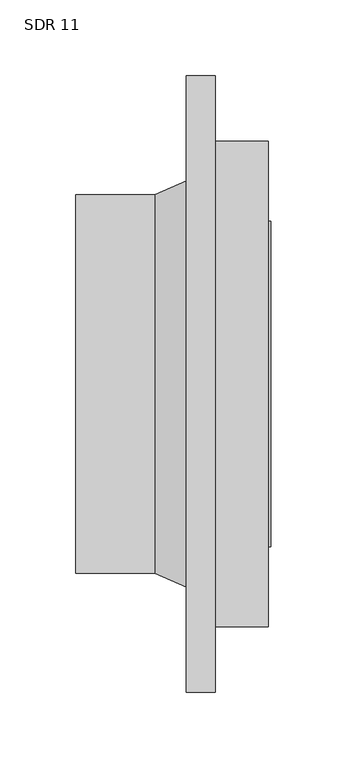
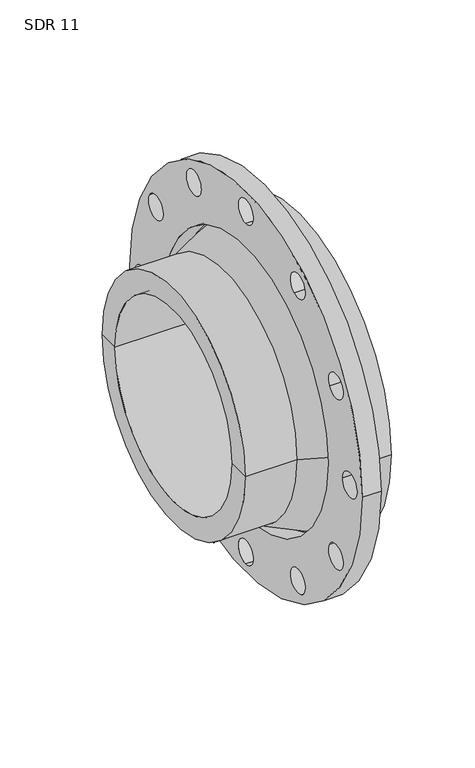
"""IFC4 building model written with IfcOpenShell, lengths in millimetres: valve geometry, Aquatherm - Flange Adapter Butt-Weld : SDR 11."""

from ifc_helpers import new_model, si_unit, point, frame, frame_2d, origin, origin_2d, place, context, project, spatial, polyline, circle_curve, trimmed, segment, composite_curve, outline, extrude, source, transform, mapped, element, save
from ifc_brep_helpers import plane_surface, cylinder_surface, revolved_surface, advanced_brep


def sdr_11_c5331786(model_context):
    return source(origin(), model_context, "Body", "SolidModel", [
        extrude(outline(composite_curve([segment(trimmed(circle_curve(origin_2d(), 203.2), [point((-203.2, 0.0))], [point((203.2, 0.0))], False, "CARTESIAN"), True, "CONTINUOUS"), segment(trimmed(circle_curve(origin_2d(), 203.2), [point((203.2, 0.0))], [point((-203.2, 0.0))], False, "CARTESIAN"), True, "CONTINUOUS")], self_intersect=False), holes=[composite_curve([segment(trimmed(circle_curve(origin_2d(), 143.51), [point((-143.51, 0.0))], [point((143.51, 0.0))], True, "CARTESIAN"), True, "CONTINUOUS"), segment(trimmed(circle_curve(origin_2d(), 143.51), [point((143.51, 0.0))], [point((-143.51, 0.0))], True, "CARTESIAN"), True, "CONTINUOUS")], self_intersect=False), composite_curve([segment(trimmed(circle_curve(frame_2d((181.61, 0.0)), 12.7), [point((168.91, 0.0))], [point((194.31, 0.0))], True, "CARTESIAN"), True, "CONTINUOUS"), segment(trimmed(circle_curve(frame_2d((181.61, 0.0)), 12.7), [point((194.31, 0.0))], [point((168.91, 0.0))], True, "CARTESIAN"), True, "CONTINUOUS")], self_intersect=False), composite_curve([segment(trimmed(circle_curve(frame_2d((157.2788736, -90.805)), 12.7), [point((146.280351, -84.455))], [point((168.2773962, -97.155))], True, "CARTESIAN"), True, "CONTINUOUS"), segment(trimmed(circle_curve(frame_2d((157.2788736, -90.805)), 12.7), [point((168.2773962, -97.155))], [point((146.280351, -84.455))], True, "CARTESIAN"), True, "CONTINUOUS")], self_intersect=False), composite_curve([segment(trimmed(circle_curve(frame_2d((157.2788736, 90.805)), 12.7), [point((146.280351, 84.455))], [point((168.2773962, 97.155))], True, "CARTESIAN"), True, "CONTINUOUS"), segment(trimmed(circle_curve(frame_2d((157.2788736, 90.805)), 12.7), [point((168.2773962, 97.155))], [point((146.280351, 84.455))], True, "CARTESIAN"), True, "CONTINUOUS")], self_intersect=False), composite_curve([segment(trimmed(circle_curve(frame_2d((90.805, 157.2788736)), 12.7), [point((84.455, 146.280351))], [point((97.155, 168.2773962))], True, "CARTESIAN"), True, "CONTINUOUS"), segment(trimmed(circle_curve(frame_2d((90.805, 157.2788736)), 12.7), [point((97.155, 168.2773962))], [point((84.455, 146.280351))], True, "CARTESIAN"), True, "CONTINUOUS")], self_intersect=False), composite_curve([segment(trimmed(circle_curve(frame_2d((0.0, 181.61)), 12.7), [point((0.0, 168.91))], [point((0.0, 194.31))], True, "CARTESIAN"), True, "CONTINUOUS"), segment(trimmed(circle_curve(frame_2d((0.0, 181.61)), 12.7), [point((0.0, 194.31))], [point((0.0, 168.91))], True, "CARTESIAN"), True, "CONTINUOUS")], self_intersect=False), composite_curve([segment(trimmed(circle_curve(frame_2d((-90.805, 157.2788736)), 12.7), [point((-84.455, 146.280351))], [point((-97.155, 168.2773962))], True, "CARTESIAN"), True, "CONTINUOUS"), segment(trimmed(circle_curve(frame_2d((-90.805, 157.2788736)), 12.7), [point((-97.155, 168.2773962))], [point((-84.455, 146.280351))], True, "CARTESIAN"), True, "CONTINUOUS")], self_intersect=False), composite_curve([segment(trimmed(circle_curve(frame_2d((-157.2788736, 90.805)), 12.7), [point((-146.280351, 84.455))], [point((-168.2773962, 97.155))], True, "CARTESIAN"), True, "CONTINUOUS"), segment(trimmed(circle_curve(frame_2d((-157.2788736, 90.805)), 12.7), [point((-168.2773962, 97.155))], [point((-146.280351, 84.455))], True, "CARTESIAN"), True, "CONTINUOUS")], self_intersect=False), composite_curve([segment(trimmed(circle_curve(frame_2d((-181.61, 0.0)), 12.7), [point((-168.91, 0.0))], [point((-194.31, 0.0))], True, "CARTESIAN"), True, "CONTINUOUS"), segment(trimmed(circle_curve(frame_2d((-181.61, 0.0)), 12.7), [point((-194.31, 0.0))], [point((-168.91, 0.0))], True, "CARTESIAN"), True, "CONTINUOUS")], self_intersect=False), composite_curve([segment(trimmed(circle_curve(frame_2d((-157.2788736, -90.805)), 12.7), [point((-146.280351, -84.455))], [point((-168.2773962, -97.155))], True, "CARTESIAN"), True, "CONTINUOUS"), segment(trimmed(circle_curve(frame_2d((-157.2788736, -90.805)), 12.7), [point((-168.2773962, -97.155))], [point((-146.280351, -84.455))], True, "CARTESIAN"), True, "CONTINUOUS")], self_intersect=False), composite_curve([segment(trimmed(circle_curve(frame_2d((-90.805, -157.2788736)), 12.7), [point((-84.455, -146.280351))], [point((-97.155, -168.2773962))], True, "CARTESIAN"), True, "CONTINUOUS"), segment(trimmed(circle_curve(frame_2d((-90.805, -157.2788736)), 12.7), [point((-97.155, -168.2773962))], [point((-84.455, -146.280351))], True, "CARTESIAN"), True, "CONTINUOUS")], self_intersect=False), composite_curve([segment(trimmed(circle_curve(frame_2d((0.0, -181.61)), 12.7), [point((0.0, -168.91))], [point((0.0, -194.31))], True, "CARTESIAN"), True, "CONTINUOUS"), segment(trimmed(circle_curve(frame_2d((0.0, -181.61)), 12.7), [point((0.0, -194.31))], [point((0.0, -168.91))], True, "CARTESIAN"), True, "CONTINUOUS")], self_intersect=False), composite_curve([segment(trimmed(circle_curve(frame_2d((90.805, -157.2788736)), 12.7), [point((84.455, -146.280351))], [point((97.155, -168.2773962))], True, "CARTESIAN"), True, "CONTINUOUS"), segment(trimmed(circle_curve(frame_2d((90.805, -157.2788736)), 12.7), [point((97.155, -168.2773962))], [point((84.455, -146.280351))], True, "CARTESIAN"), True, "CONTINUOUS")], self_intersect=False)]), frame((-19.05, 0.0, 0.0), z_axis=(1.0, 0.0, 0.0), x_axis=(0.0, 1.0, 0.0)), (0.0, 0.0, 1.0), 19.05),
        advanced_brep(
        [(35.052, 160.02, 0.0), (35.052, -160.02, 0.0), (0.0, -160.02, 0.0), (0.0, 160.02, 0.0), (36.6395, 102.362, 0.0), (36.6395, -102.362, 0.0), (36.6395, -107.442, 0.0), (36.6395, 107.442, 0.0), (-91.948, 102.362, 0.0), (-91.948, -102.362, 0.0), (-91.948, 124.968, 0.0), (-91.948, -124.968, 0.0), (-39.878, 124.968, 0.0), (-39.878, -124.968, 0.0), (0.0, -142.24, 0.0), (0.0, 142.24, 0.0), (35.052, 107.442, 0.0), (35.052, -107.442, 0.0)],
        [
            (0, 1, circle_curve(frame((35.052, 0.0, 0.0), z_axis=(-1.0, 0.0, 0.0), x_axis=(0.0, -1.0, 0.0)), 160.02)),
            (1, 2),
            (2, 3, circle_curve(frame((0.0, 0.0, 0.0), z_axis=(1.0, 0.0, 0.0), x_axis=(0.0, -1.0, 0.0)), 160.02)),
            (3, 0),
            (1, 0, circle_curve(frame((35.052, 0.0, 0.0), z_axis=(-1.0, 0.0, 0.0), x_axis=(0.0, -1.0, 0.0)), 160.02)),
            (3, 2, circle_curve(frame((0.0, 0.0, 0.0), z_axis=(1.0, 0.0, 0.0), x_axis=(0.0, -1.0, 0.0)), 160.02)),
            (4, 5, circle_curve(frame((36.6395, 0.0, 0.0), z_axis=(-1.0, 0.0, 0.0), x_axis=(0.0, -1.0, 0.0)), 102.362)),
            (5, 6),
            (6, 7, circle_curve(frame((36.6395, 0.0, 0.0), z_axis=(1.0, 0.0, 0.0), x_axis=(0.0, -1.0, 0.0)), 107.442)),
            (7, 4),
            (5, 4, circle_curve(frame((36.6395, 0.0, 0.0), z_axis=(-1.0, 0.0, 0.0), x_axis=(0.0, -1.0, 0.0)), 102.362)),
            (7, 6, circle_curve(frame((36.6395, 0.0, 0.0), z_axis=(1.0, 0.0, 0.0), x_axis=(0.0, -1.0, 0.0)), 107.442)),
            (8, 9, circle_curve(frame((-91.948, 0.0, 0.0), z_axis=(-1.0, 0.0, 0.0), x_axis=(0.0, -1.0, 0.0)), 102.362)),
            (9, 5),
            (4, 8),
            (9, 8, circle_curve(frame((-91.948, 0.0, 0.0), z_axis=(-1.0, 0.0, 0.0), x_axis=(0.0, -1.0, 0.0)), 102.362)),
            (10, 11, circle_curve(frame((-91.948, 0.0, 0.0), z_axis=(-1.0, 0.0, 0.0), x_axis=(0.0, -1.0, 0.0)), 124.968)),
            (11, 9),
            (8, 10),
            (11, 10, circle_curve(frame((-91.948, 0.0, 0.0), z_axis=(-1.0, 0.0, 0.0), x_axis=(0.0, -1.0, 0.0)), 124.968)),
            (12, 13, circle_curve(frame((-39.878, 0.0, 0.0), z_axis=(-1.0, 0.0, 0.0), x_axis=(0.0, -1.0, 0.0)), 124.968)),
            (13, 11),
            (10, 12),
            (13, 12, circle_curve(frame((-39.878, 0.0, 0.0), z_axis=(-1.0, 0.0, 0.0), x_axis=(0.0, -1.0, 0.0)), 124.968)),
            (2, 14),
            (14, 15, circle_curve(frame((0.0, 0.0, 0.0), z_axis=(1.0, 0.0, 0.0), x_axis=(0.0, -1.0, 0.0)), 142.24)),
            (15, 3),
            (15, 14, circle_curve(frame((0.0, 0.0, 0.0), z_axis=(1.0, 0.0, 0.0), x_axis=(0.0, -1.0, 0.0)), 142.24)),
            (16, 17, circle_curve(frame((35.052, 0.0, 0.0), z_axis=(-1.0, 0.0, 0.0), x_axis=(0.0, -1.0, 0.0)), 107.442)),
            (17, 1),
            (0, 16),
            (17, 16, circle_curve(frame((35.052, 0.0, 0.0), z_axis=(-1.0, 0.0, 0.0), x_axis=(0.0, -1.0, 0.0)), 107.442)),
            (6, 17),
            (16, 7),
            (14, 13),
            (12, 15),
        ],
        [
            cylinder_surface(frame((1475.6909321, 0.0, 0.0), z_axis=(1.0, 0.0, 0.0), x_axis=(0.0, -1.0, 0.0)), 160.02),
            plane_surface(frame((36.6395, 0.0, 0.0), z_axis=(1.0, 0.0, 0.0), x_axis=(0.0, -1.0, 0.0))),
            revolved_surface(polyline([(36.6395, -102.362, 0.0), (-91.94800000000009, -102.362, 0.0)]), (1475.6909321, 0.0, 0.0), (1.0, 0.0, 0.0)),
            plane_surface(frame((-91.948, 0.0, 0.0), z_axis=(-1.0, 0.0, 0.0), x_axis=(0.0, -1.0, 0.0))),
            cylinder_surface(frame((1475.6909321, 0.0, 0.0), z_axis=(1.0, 0.0, 0.0), x_axis=(0.0, -1.0, 0.0)), 124.968),
            plane_surface(frame((0.0, 0.0, 0.0), z_axis=(-1.0, 0.0, 0.0), x_axis=(0.0, -1.0, 0.0))),
            plane_surface(frame((35.052, 0.0, 0.0), z_axis=(1.0, 0.0, 0.0), x_axis=(0.0, -1.0, 0.0))),
            cylinder_surface(frame((1475.6909321, 0.0, 0.0), z_axis=(1.0, 0.0, 0.0), x_axis=(0.0, -1.0, 0.0)), 107.442),
            revolved_surface(polyline([(-39.878, -124.968, 0.0), (0.0, -142.24, 0.0)]), (1475.6909321, 0.0, 0.0), (1.0, 0.0, 0.0)),
        ],
        [
            (0, [[1, 2, 3, 4]]),
            (0, [[5, -4, 6, -2]]),
            (1, [[7, 8, 9, 10]]),
            (1, [[11, -10, 12, -8]]),
            (2, [[13, 14, -7, 15]]),
            (2, [[16, -15, -11, -14]]),
            (3, [[17, 18, -13, 19]]),
            (3, [[20, -19, -16, -18]]),
            (4, [[21, 22, -17, 23]]),
            (4, [[24, -23, -20, -22]]),
            (5, [[-3, 25, 26, 27]]),
            (5, [[-6, -27, 28, -25]]),
            (6, [[29, 30, -1, 31]]),
            (6, [[32, -31, -5, -30]]),
            (7, [[-9, 33, -29, 34]]),
            (7, [[-12, -34, -32, -33]]),
            (8, [[-26, 35, -21, 36]]),
            (8, [[-28, -36, -24, -35]]),
        ],
    ),
    ])


if __name__ == "__main__":
    model = new_model("IFC4")
    model_context = context("Model", 3, world=origin())
    ifc_project = project(units=[si_unit("LENGTHUNIT", "METRE", prefix="MILLI")], contexts=[model_context])
    site = spatial("IfcSite", under=ifc_project)
    building = spatial("IfcBuilding", under=site)
    placement = place(None, origin())
    sdr_11_shape = sdr_11_c5331786(model_context)
    element("IfcValve", 1, ObjectType="Aquatherm - Flange Adapter Butt-Weld : SDR 11", at=placement, inside=building, context=model_context, shape_type="MappedRepresentation", body=[
        mapped(sdr_11_shape, transform((0.0, 0.0, 0.0), x_axis=(1.0, 0.0, 0.0), y_axis=(0.0, 1.0, 0.0), z_axis=(0.0, 0.0, 1.0))),
    ])
    save(model, "model.ifc")
